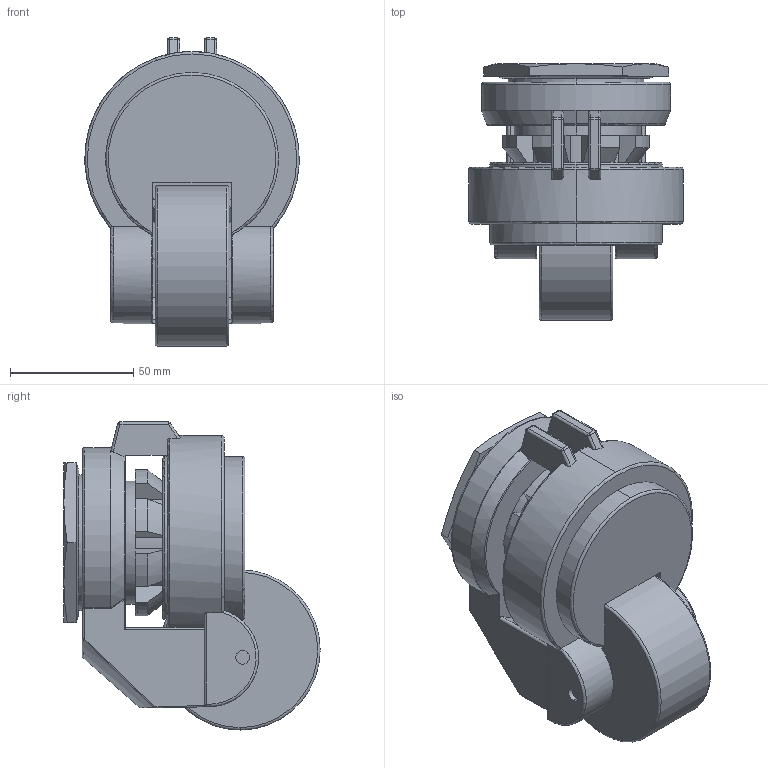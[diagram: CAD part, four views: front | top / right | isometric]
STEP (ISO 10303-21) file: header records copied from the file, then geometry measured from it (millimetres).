
FILE_DESCRIPTION (( 'STEP AP203' ), '1' );
FILE_NAME ('FG65S.STEP', '2015-11-18T07:23:59', ( '' ), ( '' ), 'SwSTEP 2.0', 'SolidWorks 2014', '' );
FILE_SCHEMA (( 'CONFIG_CONTROL_DESIGN' ));
Length unit declared in the file: millimetre
Products named in the file (1): FG65S
Bounding box: 86.98 x 104 x 125 mm (x, y, z)
Volume: 448532.2 mm3; surface area: 64459.5 mm2
Topology: 2 solids, 2 shells, 262 faces, 674 edges, 410 vertices
Faces by surface type: plane 100, cylinder 79, torus 35, cone 24, sphere 12, bspline 12
Entity records: 8537 total; most frequent: CARTESIAN_POINT 2188, ORIENTED_EDGE 1338, DIRECTION 1334, EDGE_CURVE 669, AXIS2_PLACEMENT_3D 528, VERTEX_POINT 410, VECTOR 278, LINE 278
